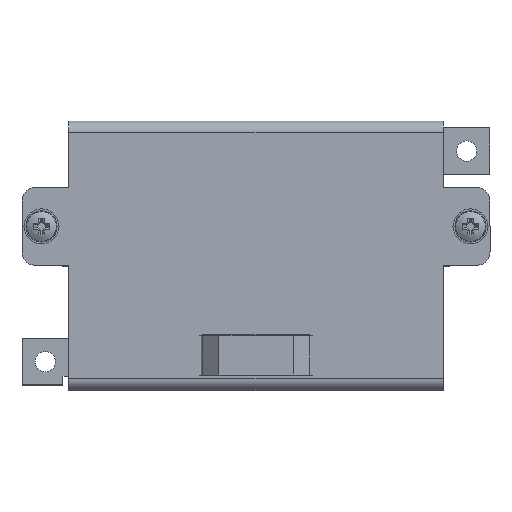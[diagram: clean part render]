
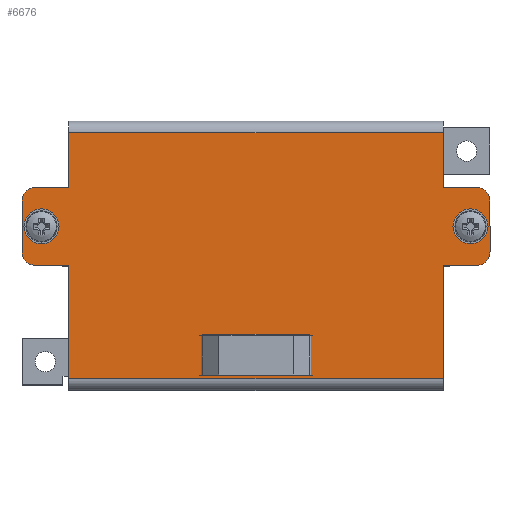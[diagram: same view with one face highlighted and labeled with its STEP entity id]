
A CAD part, top view. The second image highlights one B-rep face of the part: STEP entity #6676.
In plain terms, the highlighted planar face has unit normal (0, 0, 1).
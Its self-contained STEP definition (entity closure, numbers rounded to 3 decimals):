
#191=FACE_BOUND('',#964,.T.);
#192=FACE_BOUND('',#965,.T.);
#193=FACE_BOUND('',#966,.T.);
#256=PLANE('',#7394);
#575=FACE_OUTER_BOUND('',#963,.T.);
#963=EDGE_LOOP('',(#4875,#4876,#4877,#4878,#4879,#4880,#4881,#4882,#4883,
#4884,#4885,#4886,#4887,#4888,#4889,#4890));
#964=EDGE_LOOP('',(#4891));
#965=EDGE_LOOP('',(#4892));
#966=EDGE_LOOP('',(#4893,#4894,#4895,#4896));
#1382=LINE('',#10238,#2119);
#1383=LINE('',#10242,#2120);
#1384=LINE('',#10244,#2121);
#1385=LINE('',#10246,#2122);
#1386=LINE('',#10248,#2123);
#1387=LINE('',#10250,#2124);
#1388=LINE('',#10254,#2125);
#1389=LINE('',#10258,#2126);
#1390=LINE('',#10260,#2127);
#1391=LINE('',#10262,#2128);
#1392=LINE('',#10264,#2129);
#1393=LINE('',#10265,#2130);
#1394=LINE('',#10268,#2131);
#1395=LINE('',#10270,#2132);
#1396=LINE('',#10272,#2133);
#1397=LINE('',#10273,#2134);
#2119=VECTOR('',#8190,10.);
#2120=VECTOR('',#8193,10.);
#2121=VECTOR('',#8194,10.);
#2122=VECTOR('',#8195,10.);
#2123=VECTOR('',#8196,10.);
#2124=VECTOR('',#8197,10.);
#2125=VECTOR('',#8200,10.);
#2126=VECTOR('',#8203,10.);
#2127=VECTOR('',#8204,10.);
#2128=VECTOR('',#8205,10.);
#2129=VECTOR('',#8206,10.);
#2130=VECTOR('',#8207,10.);
#2131=VECTOR('',#8208,10.);
#2132=VECTOR('',#8209,10.);
#2133=VECTOR('',#8210,10.);
#2134=VECTOR('',#8211,10.);
#2863=CIRCLE('',#7386,2.1);
#2865=CIRCLE('',#7389,2.1);
#2867=CIRCLE('',#7392,3.5);
#2869=CIRCLE('',#7395,3.5);
#2870=CIRCLE('',#7396,3.5);
#2871=CIRCLE('',#7397,3.5);
#3096=VERTEX_POINT('',#10216);
#3098=VERTEX_POINT('',#10222);
#3100=VERTEX_POINT('',#10228);
#3101=VERTEX_POINT('',#10229);
#3104=VERTEX_POINT('',#10237);
#3105=VERTEX_POINT('',#10239);
#3106=VERTEX_POINT('',#10241);
#3107=VERTEX_POINT('',#10243);
#3108=VERTEX_POINT('',#10245);
#3109=VERTEX_POINT('',#10247);
#3110=VERTEX_POINT('',#10249);
#3111=VERTEX_POINT('',#10251);
#3112=VERTEX_POINT('',#10253);
#3113=VERTEX_POINT('',#10255);
#3114=VERTEX_POINT('',#10257);
#3115=VERTEX_POINT('',#10259);
#3116=VERTEX_POINT('',#10261);
#3117=VERTEX_POINT('',#10263);
#3118=VERTEX_POINT('',#10266);
#3119=VERTEX_POINT('',#10267);
#3120=VERTEX_POINT('',#10269);
#3121=VERTEX_POINT('',#10271);
#3758=EDGE_CURVE('',#3096,#3096,#2863,.T.);
#3761=EDGE_CURVE('',#3098,#3098,#2865,.T.);
#3764=EDGE_CURVE('',#3100,#3101,#2867,.T.);
#3768=EDGE_CURVE('',#3104,#3100,#1382,.T.);
#3769=EDGE_CURVE('',#3105,#3104,#2869,.T.);
#3770=EDGE_CURVE('',#3106,#3105,#1383,.T.);
#3771=EDGE_CURVE('',#3107,#3106,#1384,.T.);
#3772=EDGE_CURVE('',#3107,#3108,#1385,.T.);
#3773=EDGE_CURVE('',#3109,#3108,#1386,.T.);
#3774=EDGE_CURVE('',#3110,#3109,#1387,.T.);
#3775=EDGE_CURVE('',#3111,#3110,#2870,.T.);
#3776=EDGE_CURVE('',#3112,#3111,#1388,.T.);
#3777=EDGE_CURVE('',#3113,#3112,#2871,.T.);
#3778=EDGE_CURVE('',#3114,#3113,#1389,.T.);
#3779=EDGE_CURVE('',#3115,#3114,#1390,.T.);
#3780=EDGE_CURVE('',#3115,#3116,#1391,.T.);
#3781=EDGE_CURVE('',#3117,#3116,#1392,.T.);
#3782=EDGE_CURVE('',#3101,#3117,#1393,.T.);
#3783=EDGE_CURVE('',#3118,#3119,#1394,.T.);
#3784=EDGE_CURVE('',#3119,#3120,#1395,.T.);
#3785=EDGE_CURVE('',#3120,#3121,#1396,.T.);
#3786=EDGE_CURVE('',#3121,#3118,#1397,.T.);
#4875=ORIENTED_EDGE('',*,*,#3764,.F.);
#4876=ORIENTED_EDGE('',*,*,#3768,.F.);
#4877=ORIENTED_EDGE('',*,*,#3769,.F.);
#4878=ORIENTED_EDGE('',*,*,#3770,.F.);
#4879=ORIENTED_EDGE('',*,*,#3771,.F.);
#4880=ORIENTED_EDGE('',*,*,#3772,.T.);
#4881=ORIENTED_EDGE('',*,*,#3773,.F.);
#4882=ORIENTED_EDGE('',*,*,#3774,.F.);
#4883=ORIENTED_EDGE('',*,*,#3775,.F.);
#4884=ORIENTED_EDGE('',*,*,#3776,.F.);
#4885=ORIENTED_EDGE('',*,*,#3777,.F.);
#4886=ORIENTED_EDGE('',*,*,#3778,.F.);
#4887=ORIENTED_EDGE('',*,*,#3779,.F.);
#4888=ORIENTED_EDGE('',*,*,#3780,.T.);
#4889=ORIENTED_EDGE('',*,*,#3781,.F.);
#4890=ORIENTED_EDGE('',*,*,#3782,.F.);
#4891=ORIENTED_EDGE('',*,*,#3758,.T.);
#4892=ORIENTED_EDGE('',*,*,#3761,.T.);
#4893=ORIENTED_EDGE('',*,*,#3783,.T.);
#4894=ORIENTED_EDGE('',*,*,#3784,.T.);
#4895=ORIENTED_EDGE('',*,*,#3785,.T.);
#4896=ORIENTED_EDGE('',*,*,#3786,.T.);
#6676=ADVANCED_FACE('',(#575,#191,#192,#193),#256,.T.);
#7386=AXIS2_PLACEMENT_3D('',#10217,#8168,#8169);
#7389=AXIS2_PLACEMENT_3D('',#10223,#8175,#8176);
#7392=AXIS2_PLACEMENT_3D('',#10230,#8182,#8183);
#7394=AXIS2_PLACEMENT_3D('',#10236,#8188,#8189);
#7395=AXIS2_PLACEMENT_3D('',#10240,#8191,#8192);
#7396=AXIS2_PLACEMENT_3D('',#10252,#8198,#8199);
#7397=AXIS2_PLACEMENT_3D('',#10256,#8201,#8202);
#8168=DIRECTION('center_axis',(0.,0.,-1.));
#8169=DIRECTION('ref_axis',(1.,0.,0.));
#8175=DIRECTION('center_axis',(0.,0.,-1.));
#8176=DIRECTION('ref_axis',(1.,0.,0.));
#8182=DIRECTION('center_axis',(0.,0.,-1.));
#8183=DIRECTION('ref_axis',(-0.707,0.707,0.));
#8188=DIRECTION('center_axis',(0.,0.,1.));
#8189=DIRECTION('ref_axis',(1.,0.,0.));
#8190=DIRECTION('',(0.,1.,0.));
#8191=DIRECTION('center_axis',(0.,0.,-1.));
#8192=DIRECTION('ref_axis',(-0.707,-0.707,0.));
#8193=DIRECTION('',(-1.,0.,0.));
#8194=DIRECTION('',(0.,1.,0.));
#8195=DIRECTION('',(1.,0.,0.));
#8196=DIRECTION('',(0.,-1.,0.));
#8197=DIRECTION('',(-1.,0.,0.));
#8198=DIRECTION('center_axis',(0.,0.,-1.));
#8199=DIRECTION('ref_axis',(0.707,-0.707,0.));
#8200=DIRECTION('',(0.,-1.,0.));
#8201=DIRECTION('center_axis',(0.,0.,-1.));
#8202=DIRECTION('ref_axis',(0.707,0.707,0.));
#8203=DIRECTION('',(1.,0.,0.));
#8204=DIRECTION('',(0.,-1.,0.));
#8205=DIRECTION('',(-1.,0.,0.));
#8206=DIRECTION('',(0.,1.,0.));
#8207=DIRECTION('',(1.,0.,0.));
#8208=DIRECTION('',(0.,1.,0.));
#8209=DIRECTION('',(1.,0.,0.));
#8210=DIRECTION('',(0.,-1.,0.));
#8211=DIRECTION('',(-1.,0.,0.));
#10216=CARTESIAN_POINT('',(-57.1,7.5,1.5));
#10217=CARTESIAN_POINT('Origin',(-55.,7.5,1.5));
#10222=CARTESIAN_POINT('',(52.9,7.5,1.5));
#10223=CARTESIAN_POINT('Origin',(55.,7.5,1.5));
#10228=CARTESIAN_POINT('',(-60.,14.,1.5));
#10229=CARTESIAN_POINT('',(-56.5,17.5,1.5));
#10230=CARTESIAN_POINT('Origin',(-56.5,14.,1.5));
#10236=CARTESIAN_POINT('Origin',(0.,0.952,
1.5));
#10237=CARTESIAN_POINT('',(-60.,1.,1.5));
#10238=CARTESIAN_POINT('',(-60.,17.5,1.5));
#10239=CARTESIAN_POINT('',(-56.5,-2.5,1.5));
#10240=CARTESIAN_POINT('Origin',(-56.5,1.,1.5));
#10241=CARTESIAN_POINT('',(-48.,-2.5,1.5));
#10242=CARTESIAN_POINT('',(-60.,-2.5,1.5));
#10243=CARTESIAN_POINT('',(-48.,-31.5,1.5));
#10244=CARTESIAN_POINT('',(-48.,-2.5,1.5));
#10245=CARTESIAN_POINT('',(48.,-31.5,1.5));
#10246=CARTESIAN_POINT('',(-24.,-31.5,1.5));
#10247=CARTESIAN_POINT('',(48.,-2.5,1.5));
#10248=CARTESIAN_POINT('',(48.,-34.5,1.5));
#10249=CARTESIAN_POINT('',(56.5,-2.5,1.5));
#10250=CARTESIAN_POINT('',(48.,-2.5,1.5));
#10251=CARTESIAN_POINT('',(60.,1.,1.5));
#10252=CARTESIAN_POINT('Origin',(56.5,1.,1.5));
#10253=CARTESIAN_POINT('',(60.,14.,1.5));
#10254=CARTESIAN_POINT('',(60.,-2.5,1.5));
#10255=CARTESIAN_POINT('',(56.5,17.5,1.5));
#10256=CARTESIAN_POINT('Origin',(56.5,14.,1.5));
#10257=CARTESIAN_POINT('',(48.,17.5,1.5));
#10258=CARTESIAN_POINT('',(60.,17.5,1.5));
#10259=CARTESIAN_POINT('',(48.,31.5,1.5));
#10260=CARTESIAN_POINT('',(48.,17.5,1.5));
#10261=CARTESIAN_POINT('',(-48.,31.5,1.5));
#10262=CARTESIAN_POINT('',(24.,31.5,1.5));
#10263=CARTESIAN_POINT('',(-48.,17.5,1.5));
#10264=CARTESIAN_POINT('',(-48.,34.5,1.5));
#10265=CARTESIAN_POINT('',(-48.,17.5,1.5));
#10266=CARTESIAN_POINT('',(-13.7,-30.7,1.5));
#10267=CARTESIAN_POINT('',(-13.7,-20.2,1.5));
#10268=CARTESIAN_POINT('',(-13.7,-14.874,1.5));
#10269=CARTESIAN_POINT('',(13.7,-20.2,1.5));
#10270=CARTESIAN_POINT('',(-6.85,-20.2,1.5));
#10271=CARTESIAN_POINT('',(13.7,-30.7,1.5));
#10272=CARTESIAN_POINT('',(13.7,-9.624,1.5));
#10273=CARTESIAN_POINT('',(6.85,-30.7,1.5));
